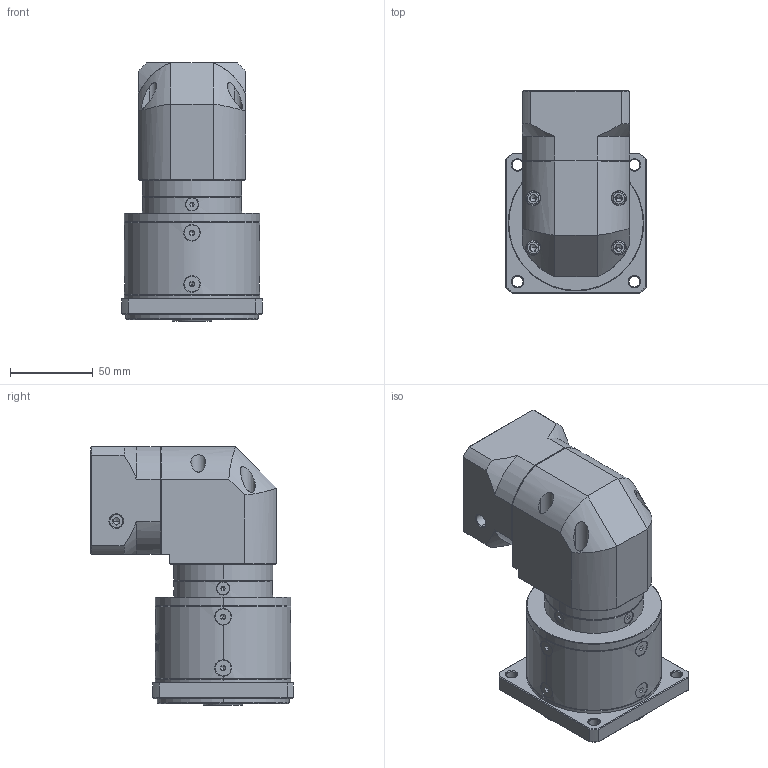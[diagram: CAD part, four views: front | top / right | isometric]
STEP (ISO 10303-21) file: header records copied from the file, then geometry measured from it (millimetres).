
FILE_DESCRIPTION (( 'STEP AP214' ), '1' );
FILE_NAME ('ZFR080-K15-L2-P2-11-60-75-M5.step', '2023-08-25T07:23:40', ( '' ), ( '' ), 'SwSTEP 2.0', 'SolidWorks 2016', '' );
FILE_SCHEMA (( 'AUTOMOTIVE_DESIGN' ));
Length unit declared in the file: millimetre
Products named in the file (1): ZFR080-K15-L2-P2-11-60-75-M5
Bounding box: 85 x 122.7 x 156.5 mm (x, y, z)
Volume: 782942.6 mm3; surface area: 102494.9 mm2
Topology: 17 solids, 18 shells, 2426 faces, 6338 edges, 4026 vertices
Faces by surface type: plane 1171, cylinder 444, bspline 402, cone 375, torus 34
Entity records: 125535 total; most frequent: CARTESIAN_POINT 44115, ORIENTED_EDGE 12588, DIRECTION 9695, EDGE_CURVE 6294, VERTEX_POINT 4026, LINE 3359, VECTOR 3359, AXIS2_PLACEMENT_3D 3168
